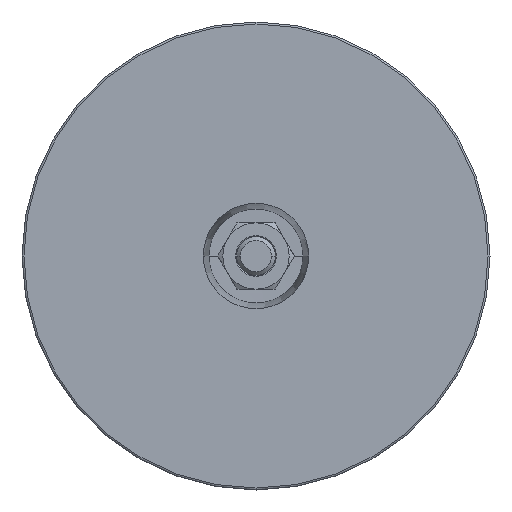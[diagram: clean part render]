
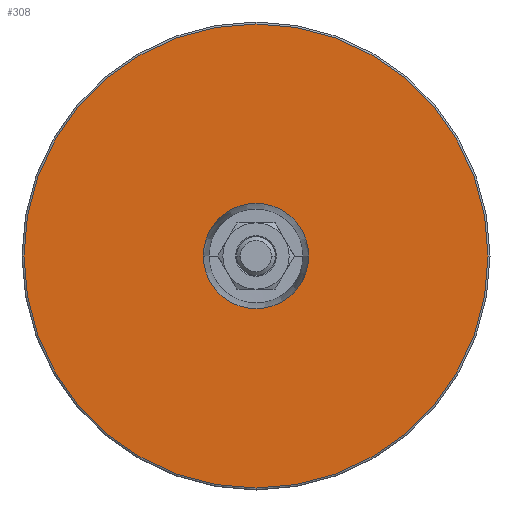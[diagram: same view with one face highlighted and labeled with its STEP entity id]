
A CAD part, front view. The second image highlights one B-rep face of the part: STEP entity #308.
In plain terms, the highlighted planar face has unit normal (0, -1, 0).
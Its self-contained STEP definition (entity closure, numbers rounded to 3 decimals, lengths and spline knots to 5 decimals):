
#308=ADVANCED_FACE('440:60',(#515,#516),#517,.T.);
#515=FACE_OUTER_BOUND('',#1887,.T.);
#516=FACE_BOUND('',#1888,.T.);
#517=PLANE('',#1889);
#1887=EDGE_LOOP('',(#2555,#2556,#2557));
#1888=EDGE_LOOP('',(#2558,#2559));
#1889=AXIS2_PLACEMENT_3D('',#2560,#2561,#2562);
#2555=ORIENTED_EDGE('',*,*,#2986,.T.);
#2556=ORIENTED_EDGE('',*,*,#2968,.T.);
#2557=ORIENTED_EDGE('',*,*,#2987,.T.);
#2558=ORIENTED_EDGE('',*,*,#2988,.F.);
#2559=ORIENTED_EDGE('',*,*,#2960,.F.);
#2560=CARTESIAN_POINT('',(0.0595,0.,0.0));
#2561=DIRECTION('',(0.0,-1.0,0.0));
#2562=DIRECTION('',(0.0,0.0,-1.0));
#2960=EDGE_CURVE('440:302',#3336,#3338,#3339,.T.);
#2968=EDGE_CURVE('440:279',#3354,#3351,#3355,.T.);
#2986=EDGE_CURVE('440:279',#3381,#3354,#3382,.T.);
#2987=EDGE_CURVE('440:279',#3351,#3381,#3383,.T.);
#2988=EDGE_CURVE('440:302',#3338,#3336,#3384,.T.);
#3336=VERTEX_POINT('',#7151);
#3338=VERTEX_POINT('',#7154);
#3339=CIRCLE('',#7155,0.0135);
#3351=VERTEX_POINT('',#7170);
#3354=VERTEX_POINT('',#7173);
#3355=CIRCLE('',#7174,0.0595);
#3381=VERTEX_POINT('',#7202);
#3382=CIRCLE('',#7203,0.0595);
#3383=CIRCLE('',#7204,0.0595);
#3384=CIRCLE('',#7205,0.0135);
#7151=CARTESIAN_POINT('',(0.0135,0.0,0.));
#7154=CARTESIAN_POINT('',(-0.0135,0.0,0.));
#7155=AXIS2_PLACEMENT_3D('',#7747,#7748,#7749);
#7170=CARTESIAN_POINT('',(0.,0.,0.0595));
#7173=CARTESIAN_POINT('',(0.,0.,-0.0595));
#7174=AXIS2_PLACEMENT_3D('',#7765,#7766,#7767);
#7202=CARTESIAN_POINT('',(-0.0595,0.,0.0));
#7203=AXIS2_PLACEMENT_3D('',#7815,#7816,#7817);
#7204=AXIS2_PLACEMENT_3D('',#7818,#7819,#7820);
#7205=AXIS2_PLACEMENT_3D('',#7821,#7822,#7823);
#7747=CARTESIAN_POINT('',(0.0,0.0,0.0));
#7748=DIRECTION('',(0.0,-1.0,0.0));
#7749=DIRECTION('',(1.0,0.0,0.0));
#7765=CARTESIAN_POINT('',(0.0,0.,0.0));
#7766=DIRECTION('',(0.0,-1.0,0.0));
#7767=DIRECTION('',(1.0,0.0,0.0));
#7815=CARTESIAN_POINT('',(0.0,0.,0.0));
#7816=DIRECTION('',(0.0,-1.0,0.0));
#7817=DIRECTION('',(1.0,0.0,0.0));
#7818=CARTESIAN_POINT('',(0.0,0.,0.0));
#7819=DIRECTION('',(0.0,-1.0,0.0));
#7820=DIRECTION('',(1.0,0.0,0.0));
#7821=CARTESIAN_POINT('',(0.0,0.0,0.0));
#7822=DIRECTION('',(0.0,-1.0,0.0));
#7823=DIRECTION('',(1.0,0.0,0.0));
